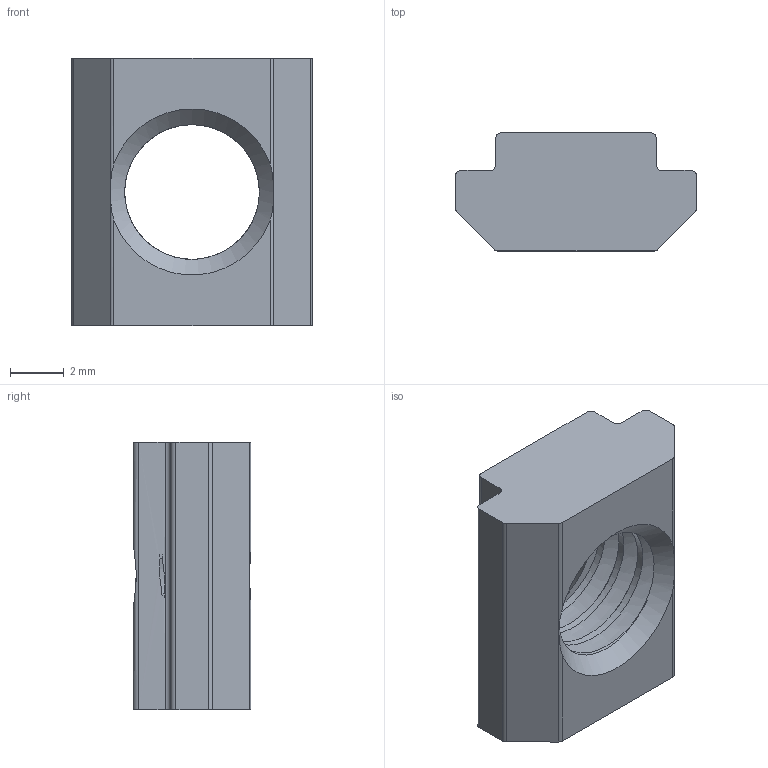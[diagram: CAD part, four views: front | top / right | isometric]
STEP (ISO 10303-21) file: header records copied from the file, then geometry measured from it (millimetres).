
FILE_DESCRIPTION(/* description */ ('STEP AP203'),/* implementation_level */ '2;1');
FILE_NAME(/* name */ '20 Series M6 Slide Nut - TV-Slot - Zinc Plated v1.step',/* time_stamp */ '2024-08-17T15:08:57+03:00',/* author */ (''),/* organization */ (''),/* preprocessor_version */ 'ST-DEVELOPER v20',/* originating_system */ 'Autodesk Translation Framework v13.14.0.145',/* authorisation */ '');
FILE_SCHEMA (('AUTOMOTIVE_DESIGN { 1 0 10303 214 3 1 1 }'));
Length unit declared in the file: millimetre
Products named in the file (1): 2110.006.003
Bounding box: 9 x 4.4 x 10 mm (x, y, z)
Volume: 225.5 mm3; surface area: 378.8 mm2
Topology: 1 solids, 1 shells, 40 faces, 122 edges, 80 vertices
Faces by surface type: cylinder 20, plane 16, bspline 2, cone 2
Full cylindrical faces by diameter (mm): 5.035 x1, 6.147 x1
Entity records: 2291 total; most frequent: CARTESIAN_POINT 1183, ORIENTED_EDGE 244, DIRECTION 207, EDGE_CURVE 122, VERTEX_POINT 80, AXIS2_PLACEMENT_3D 75, LINE 57, VECTOR 57
